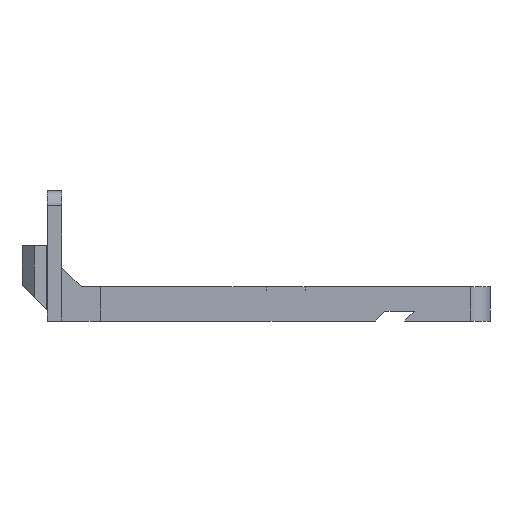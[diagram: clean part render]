
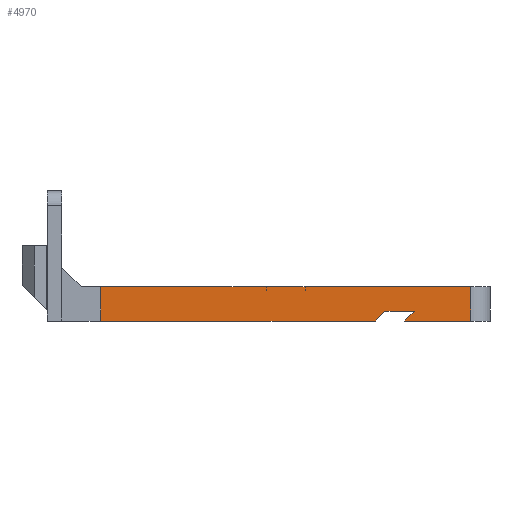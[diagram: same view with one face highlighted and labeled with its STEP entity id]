
A CAD part, front view. The second image highlights one B-rep face of the part: STEP entity #4970.
In plain terms, the highlighted planar face has unit normal (0, -1, 0).
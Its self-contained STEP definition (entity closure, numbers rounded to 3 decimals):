
#370=FACE_OUTER_BOUND('',#701,.T.);
#701=EDGE_LOOP('',(#3304,#3305,#3306,#3307,#3308,#3309,#3310,#3311,#3312,
#3313,#3314,#3315));
#1035=LINE('',#7463,#1582);
#1039=LINE('',#7470,#1586);
#1042=LINE('',#7476,#1589);
#1043=LINE('',#7479,#1590);
#1044=LINE('',#7481,#1591);
#1045=LINE('',#7483,#1592);
#1046=LINE('',#7485,#1593);
#1047=LINE('',#7487,#1594);
#1048=LINE('',#7489,#1595);
#1049=LINE('',#7491,#1596);
#1050=LINE('',#7493,#1597);
#1051=LINE('',#7494,#1598);
#1582=VECTOR('',#5851,10.);
#1586=VECTOR('',#5857,10.);
#1589=VECTOR('',#5862,10.);
#1590=VECTOR('',#5865,10.);
#1591=VECTOR('',#5866,10.);
#1592=VECTOR('',#5867,10.);
#1593=VECTOR('',#5868,10.);
#1594=VECTOR('',#5869,10.);
#1595=VECTOR('',#5870,10.);
#1596=VECTOR('',#5871,10.);
#1597=VECTOR('',#5872,10.);
#1598=VECTOR('',#5873,10.);
#2129=VERTEX_POINT('',#7460);
#2130=VERTEX_POINT('',#7462);
#2132=VERTEX_POINT('',#7468);
#2134=VERTEX_POINT('',#7474);
#2135=VERTEX_POINT('',#7478);
#2136=VERTEX_POINT('',#7480);
#2137=VERTEX_POINT('',#7482);
#2138=VERTEX_POINT('',#7484);
#2139=VERTEX_POINT('',#7486);
#2140=VERTEX_POINT('',#7488);
#2141=VERTEX_POINT('',#7490);
#2142=VERTEX_POINT('',#7492);
#2549=EDGE_CURVE('',#2130,#2129,#1035,.T.);
#2553=EDGE_CURVE('',#2129,#2132,#1039,.T.);
#2556=EDGE_CURVE('',#2132,#2134,#1042,.T.);
#2557=EDGE_CURVE('',#2135,#2134,#1043,.T.);
#2558=EDGE_CURVE('',#2136,#2135,#1044,.T.);
#2559=EDGE_CURVE('',#2136,#2137,#1045,.F.);
#2560=EDGE_CURVE('',#2137,#2138,#1046,.T.);
#2561=EDGE_CURVE('',#2139,#2138,#1047,.T.);
#2562=EDGE_CURVE('',#2140,#2139,#1048,.T.);
#2563=EDGE_CURVE('',#2140,#2141,#1049,.F.);
#2564=EDGE_CURVE('',#2141,#2142,#1050,.T.);
#2565=EDGE_CURVE('',#2130,#2142,#1051,.T.);
#3304=ORIENTED_EDGE('',*,*,#2549,.T.);
#3305=ORIENTED_EDGE('',*,*,#2553,.T.);
#3306=ORIENTED_EDGE('',*,*,#2556,.T.);
#3307=ORIENTED_EDGE('',*,*,#2557,.F.);
#3308=ORIENTED_EDGE('',*,*,#2558,.F.);
#3309=ORIENTED_EDGE('',*,*,#2559,.T.);
#3310=ORIENTED_EDGE('',*,*,#2560,.T.);
#3311=ORIENTED_EDGE('',*,*,#2561,.F.);
#3312=ORIENTED_EDGE('',*,*,#2562,.F.);
#3313=ORIENTED_EDGE('',*,*,#2563,.T.);
#3314=ORIENTED_EDGE('',*,*,#2564,.T.);
#3315=ORIENTED_EDGE('',*,*,#2565,.F.);
#4785=PLANE('',#5316);
#4970=ADVANCED_FACE('',(#370),#4785,.T.);
#5316=AXIS2_PLACEMENT_3D('',#7477,#5863,#5864);
#5851=DIRECTION('',(0.707,0.,0.707));
#5857=DIRECTION('',(1.,0.,0.));
#5862=DIRECTION('',(-0.707,0.,-0.707));
#5863=DIRECTION('center_axis',(0.,-1.,0.));
#5864=DIRECTION('ref_axis',(1.,0.,0.));
#5865=DIRECTION('',(-1.,0.,0.));
#5866=DIRECTION('',(0.,0.,-1.));
#5867=DIRECTION('',(1.,0.,0.));
#5868=DIRECTION('',(0.,0.,-1.));
#5869=DIRECTION('',(1.,0.,0.));
#5870=DIRECTION('',(0.,0.,-1.));
#5871=DIRECTION('',(1.,0.,0.));
#5872=DIRECTION('',(0.,0.,-1.));
#5873=DIRECTION('',(-1.,0.,0.));
#7460=CARTESIAN_POINT('',(165.572,-21.,-112.478));
#7462=CARTESIAN_POINT('',(163.572,-21.,-114.478));
#7463=CARTESIAN_POINT('',(149.055,-21.,-128.995));
#7468=CARTESIAN_POINT('',(171.572,-21.,-112.478));
#7470=CARTESIAN_POINT('',(134.361,-21.,-112.478));
#7474=CARTESIAN_POINT('',(169.572,-21.,-114.478));
#7476=CARTESIAN_POINT('',(154.555,-21.,-129.495));
#7477=CARTESIAN_POINT('Origin',(103.15,-21.,-112.124));
#7478=CARTESIAN_POINT('',(183.15,-21.,-114.478));
#7479=CARTESIAN_POINT('',(183.15,-21.,-114.478));
#7480=CARTESIAN_POINT('',(183.15,-21.,-107.478));
#7481=CARTESIAN_POINT('',(183.15,-21.,-112.124));
#7482=CARTESIAN_POINT('',(149.15,-21.,-107.478));
#7483=CARTESIAN_POINT('',(164.15,-21.,-107.478));
#7484=CARTESIAN_POINT('',(149.15,-21.,-107.478));
#7485=CARTESIAN_POINT('',(149.15,-21.,-112.124));
#7486=CARTESIAN_POINT('',(141.15,-21.,-107.478));
#7487=CARTESIAN_POINT('',(183.15,-21.,-107.478));
#7488=CARTESIAN_POINT('',(141.15,-21.,-107.478));
#7489=CARTESIAN_POINT('',(141.15,-21.,-112.124));
#7490=CARTESIAN_POINT('',(107.15,-21.,-107.478));
#7491=CARTESIAN_POINT('',(122.15,-21.,-107.478));
#7492=CARTESIAN_POINT('',(107.15,-21.,-114.478));
#7493=CARTESIAN_POINT('',(107.15,-21.,-112.124));
#7494=CARTESIAN_POINT('',(183.15,-21.,-114.478));
